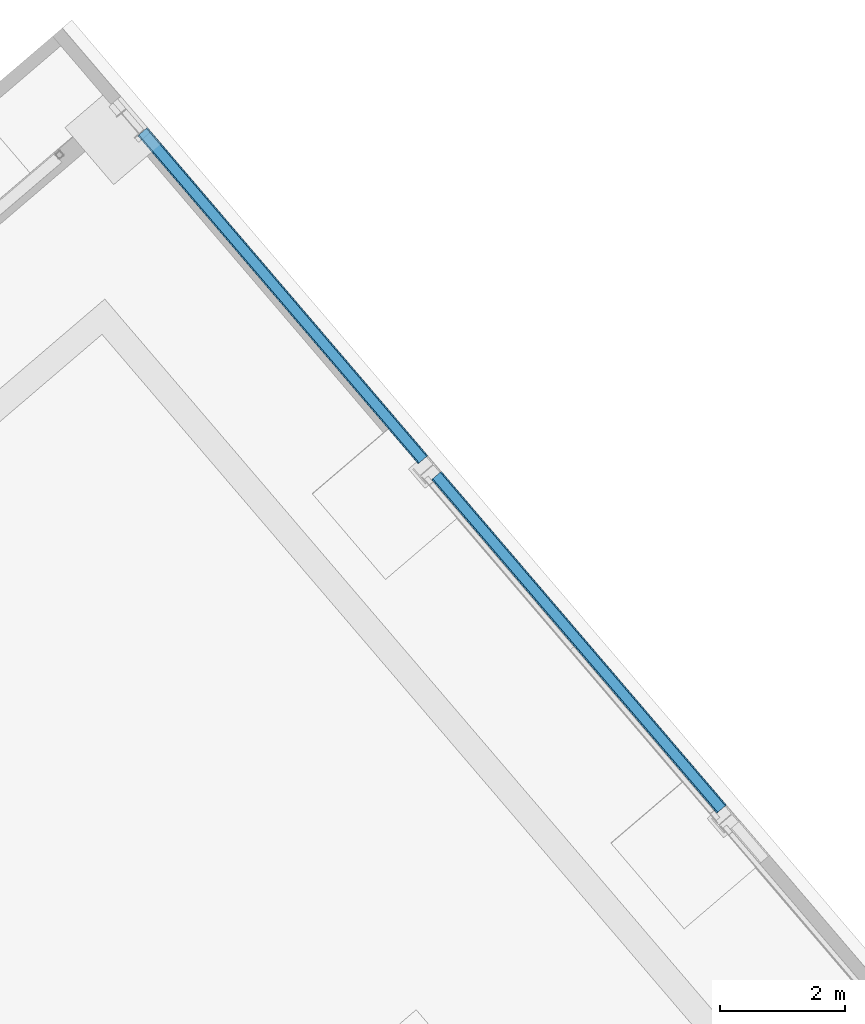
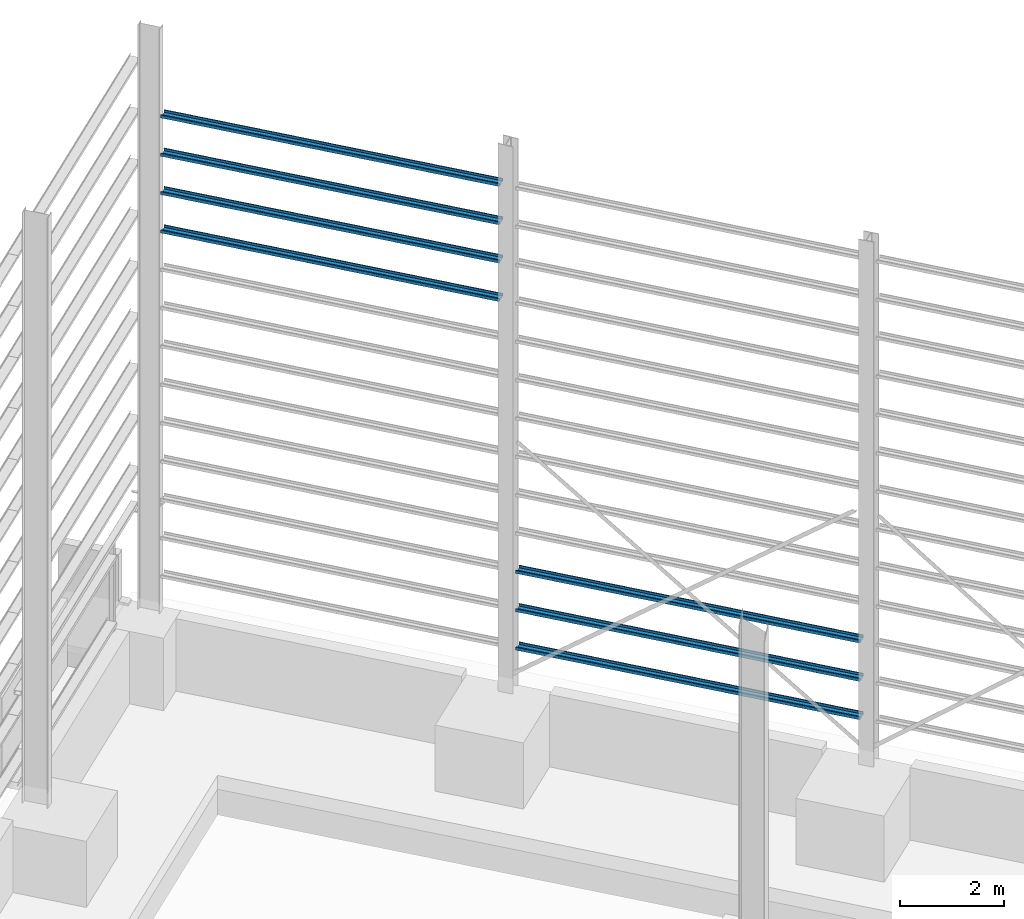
# One storey, part 29 of 41: 7 beams, 2 elements without a shape of their own.
"""IFC2X3 building model written with IfcOpenShell, lengths in millimetres."""

from ifc_helpers import new_model, entity, si_unit, converted_unit, derived_unit, direction, frame, frame_2d, origin, place, context, subcontext, project, spatial, polyline, circle_curve, parameter, trimmed, segment, composite_curve, outline, extrude, material, type_object, element, aggregate, save


model = new_model("IFC2X3")

# Units and contexts
model_context = context("Model", 3, precision=0.01, world=origin(), true_north=direction((6.123031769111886e-17, 1.0)))
body_context = subcontext(model_context, "Body", "Model", "MODEL_VIEW")
ifc_project = project(units=[si_unit("LENGTHUNIT", "METRE", prefix="MILLI"), si_unit("AREAUNIT", "SQUARE_METRE"), si_unit("VOLUMEUNIT", "CUBIC_METRE"), converted_unit("PLANEANGLEUNIT", "DEGREE", entity("IfcRatioMeasure", 0.017453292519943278), si_unit("PLANEANGLEUNIT", "RADIAN"), dimensions=[0, 0, 0, 0, 0, 0, 0]), si_unit("MASSUNIT", "GRAM", prefix="KILO"), derived_unit("MASSDENSITYUNIT", [(si_unit("MASSUNIT", "GRAM", prefix="KILO"), 1), (si_unit("LENGTHUNIT", "METRE"), -3)]), derived_unit("MOMENTOFINERTIAUNIT", [(si_unit("LENGTHUNIT", "METRE"), 4)]), si_unit("TIMEUNIT", "SECOND"), si_unit("FREQUENCYUNIT", "HERTZ"), si_unit("THERMODYNAMICTEMPERATUREUNIT", "DEGREE_CELSIUS"), derived_unit("THERMALTRANSMITTANCEUNIT", [(si_unit("MASSUNIT", "GRAM", prefix="KILO"), 1), (si_unit("THERMODYNAMICTEMPERATUREUNIT", "KELVIN"), -1), (si_unit("TIMEUNIT", "SECOND"), -3)]), derived_unit("VOLUMETRICFLOWRATEUNIT", [(si_unit("LENGTHUNIT", "METRE"), 3), (si_unit("TIMEUNIT", "SECOND"), -1)]), derived_unit("MASSFLOWRATEUNIT", [(si_unit("MASSUNIT", "GRAM", prefix="KILO"), 1), (si_unit("TIMEUNIT", "SECOND"), -1)]), derived_unit("ROTATIONALFREQUENCYUNIT", [(si_unit("TIMEUNIT", "SECOND"), -1)]), si_unit("ELECTRICCURRENTUNIT", "AMPERE"), si_unit("ELECTRICVOLTAGEUNIT", "VOLT"), si_unit("POWERUNIT", "WATT"), si_unit("FORCEUNIT", "NEWTON", prefix="KILO"), si_unit("ILLUMINANCEUNIT", "LUX"), si_unit("LUMINOUSFLUXUNIT", "LUMEN"), si_unit("LUMINOUSINTENSITYUNIT", "CANDELA"), derived_unit("USERDEFINED", [(si_unit("MASSUNIT", "GRAM", prefix="KILO"), -1), (si_unit("LENGTHUNIT", "METRE"), -2), (si_unit("TIMEUNIT", "SECOND"), 3), (si_unit("LUMINOUSFLUXUNIT", "LUMEN"), 1)]), derived_unit("SOUNDPOWERUNIT", [(si_unit("MASSUNIT", "GRAM", prefix="KILO"), 1), (si_unit("LENGTHUNIT", "METRE"), 2), (si_unit("TIMEUNIT", "SECOND"), -3)]), derived_unit("LINEARVELOCITYUNIT", [(si_unit("LENGTHUNIT", "METRE"), 1), (si_unit("TIMEUNIT", "SECOND"), -1)]), si_unit("PRESSUREUNIT", "PASCAL"), derived_unit("USERDEFINED", [(si_unit("LENGTHUNIT", "METRE"), -2), (si_unit("MASSUNIT", "GRAM", prefix="KILO"), 1), (si_unit("TIMEUNIT", "SECOND"), -2)]), derived_unit("LINEARFORCEUNIT", [(si_unit("MASSUNIT", "GRAM", prefix="KILO"), 1), (si_unit("LENGTHUNIT", "METRE"), 1), (si_unit("TIMEUNIT", "SECOND"), -2), (si_unit("LENGTHUNIT", "METRE"), -1)]), derived_unit("PLANARFORCEUNIT", [(si_unit("MASSUNIT", "GRAM", prefix="KILO"), 1), (si_unit("LENGTHUNIT", "METRE"), 1), (si_unit("TIMEUNIT", "SECOND"), -2), (si_unit("LENGTHUNIT", "METRE"), -2)])], contexts=[model_context])

# Site, building, storey
site_placement = place(None, frame((962.4174930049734, -6014.433753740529, 0.0), z_axis=(0.0, 0.0, 1.0), x_axis=(0.7601792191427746, 0.649713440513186, 0.0)))
site = spatial("IfcSite", under=ifc_project, at=site_placement, Name="Default", CompositionType="ELEMENT")
building_placement = place(site_placement, origin())
building = spatial("IfcBuilding", under=site, at=building_placement, CompositionType="ELEMENT")
storey_placement = place(building_placement, origin())
storey = spatial("IfcBuildingStorey", under=building, at=storey_placement, Name="Datum", CompositionType="ELEMENT", Elevation=0.0)

# Assembly, beams
assembly_1_placement = place(building_placement, origin())
assembly_1 = element("IfcElementAssembly", 1, at=assembly_1_placement, inside=storey, Name="Structural Beam System:Structural Beam System 1", ObjectType="Structural Beam System:Structural Beam System 1", AssemblyPlace="NOTDEFINED", PredefinedType="BEAM_GRID")
ifc_material = material(Name="Metal - Light Gauge")
beam_type = type_object("IfcBeamType", Name="ADSK_AUS_Light Gauge-Joists:C20015", PredefinedType="NOTDEFINED")
beam_1_placement = place(building_placement, frame((185748.56020470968, -11068.428082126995, 2403.9276653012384), z_axis=(0.0, 0.0, 1.0), x_axis=(0.0, 1.0, 0.0)))
beam_1 = element("IfcBeam", 2, at=beam_1_placement, type_object=beam_type, material=ifc_material, Name="ADSK_AUS_Light Gauge-Joists:C20015", ObjectType="ADSK_AUS_Light Gauge-Joists:C20015", context=body_context, shape_type="SweptSolid", body=[
    extrude(outline(composite_curve([segment(polyline([(-25.691849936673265, -101.50000000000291), (39.4918499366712, -101.50000000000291)]), True, "CONTINUOUS"), segment(trimmed(circle_curve(frame_2d((39.491849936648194, -98.8418499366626), x_axis=(0.0, -1.0)), 2.658150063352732), [parameter(0.0)], [parameter(89.99999999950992)], True, "PARAMETER"), True, "CONTINUOUS"), segment(polyline([(42.15000000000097, -98.8418499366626), (42.15000000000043, 98.84184993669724)]), True, "CONTINUOUS"), segment(trimmed(circle_curve(frame_2d((39.491849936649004, 98.84184993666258), x_axis=(1.0, 0.0)), 2.6581500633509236), [parameter(0.0)], [parameter(89.99999999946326)], True, "PARAMETER"), True, "CONTINUOUS"), segment(polyline([(39.49184993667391, 101.50000000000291), (-25.691849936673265, 101.50000000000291)]), True, "CONTINUOUS"), segment(trimmed(circle_curve(frame_2d((-25.691849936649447, 98.84184993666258), x_axis=(0.0, 1.0)), 2.6581500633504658), [parameter(0.0)], [parameter(89.99999999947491)], True, "PARAMETER"), True, "CONTINUOUS"), segment(polyline([(-28.35000000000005, 98.84184993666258), (-28.35000000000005, 80.0)]), True, "CONTINUOUS"), segment(polyline([(-28.34999999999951, 80.0), (-26.849999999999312, 80.0)]), True, "CONTINUOUS"), segment(polyline([(-26.849999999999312, 80.0), (-26.849999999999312, 98.42934993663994)]), True, "CONTINUOUS"), segment(trimmed(circle_curve(frame_2d((-25.279349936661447, 98.4293499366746), x_axis=(-1.0, 0.0)), 1.570650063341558), [parameter(270.0000000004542)], [parameter(0.0)], True, "PARAMETER"), False, "CONTINUOUS"), segment(polyline([(-25.279349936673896, 100.0), (39.07934993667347, 100.0)]), True, "CONTINUOUS"), segment(trimmed(circle_curve(frame_2d((39.07934993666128, 98.4293499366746), x_axis=(0.0, 1.0)), 1.5706500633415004), [parameter(270.00000000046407)], [parameter(0.0)], True, "PARAMETER"), False, "CONTINUOUS"), segment(polyline([(40.6500000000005, 98.4293499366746), (40.65000000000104, -98.4293499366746)]), True, "CONTINUOUS"), segment(trimmed(circle_curve(frame_2d((39.07934993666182, -98.4293499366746), x_axis=(1.0, 0.0)), 1.5706500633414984), [parameter(270.00000000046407)], [parameter(0.0)], True, "PARAMETER"), False, "CONTINUOUS"), segment(polyline([(39.07934993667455, -100.0), (-25.279349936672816, -100.0)]), True, "CONTINUOUS"), segment(trimmed(circle_curve(frame_2d((-25.279349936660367, -98.4293499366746), x_axis=(0.0, -1.0)), 1.5706500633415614), [parameter(270.0000000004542)], [parameter(0.0)], True, "PARAMETER"), False, "CONTINUOUS"), segment(polyline([(-26.849999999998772, -98.4293499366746), (-26.849999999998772, -80.0)]), True, "CONTINUOUS"), segment(polyline([(-26.849999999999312, -80.0), (-28.34999999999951, -80.0)]), True, "CONTINUOUS"), segment(polyline([(-28.34999999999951, -80.0), (-28.34999999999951, -98.84184993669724)]), True, "CONTINUOUS"), segment(trimmed(circle_curve(frame_2d((-25.691849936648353, -98.8418499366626), x_axis=(-1.0, 0.0)), 2.6581500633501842), [parameter(0.0)], [parameter(89.99999999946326)], True, "PARAMETER"), True, "CONTINUOUS")], self_intersect=False)), frame((13.168750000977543, -101.50000000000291, 42.1500000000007), z_axis=(1.0, 0.0, 0.0), x_axis=(0.0, 0.0, -1.0)), (0.0, 0.0, 1.0), 7021.000000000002),
])
beam_2_placement = place(building_placement, frame((185748.56020470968, -11068.428082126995, 1503.927665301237), z_axis=(0.0, 0.0, 1.0), x_axis=(0.0, 1.0, 0.0)))
beam_2 = element("IfcBeam", 3, at=beam_2_placement, type_object=beam_type, material=ifc_material, Name="ADSK_AUS_Light Gauge-Joists:C20015", ObjectType="ADSK_AUS_Light Gauge-Joists:C20015", context=body_context, shape_type="SweptSolid", body=[
    extrude(outline(composite_curve([segment(polyline([(-25.691849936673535, -101.50000000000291), (39.49184993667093, -101.50000000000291)]), True, "CONTINUOUS"), segment(trimmed(circle_curve(frame_2d((39.491849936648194, -98.8418499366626), x_axis=(0.0, -1.0)), 2.658150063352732), [parameter(0.0)], [parameter(89.99999999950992)], True, "PARAMETER"), True, "CONTINUOUS"), segment(polyline([(42.15000000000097, -98.8418499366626), (42.15000000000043, 98.84184993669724)]), True, "CONTINUOUS"), segment(trimmed(circle_curve(frame_2d((39.491849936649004, 98.84184993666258), x_axis=(1.0, 0.0)), 2.6581500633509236), [parameter(0.0)], [parameter(89.99999999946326)], True, "PARAMETER"), True, "CONTINUOUS"), segment(polyline([(39.49184993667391, 101.50000000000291), (-25.691849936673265, 101.50000000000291)]), True, "CONTINUOUS"), segment(trimmed(circle_curve(frame_2d((-25.691849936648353, 98.84184993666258), x_axis=(0.0, 1.0)), 2.658150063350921), [parameter(0.0)], [parameter(89.99999999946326)], True, "PARAMETER"), True, "CONTINUOUS"), segment(polyline([(-28.34999999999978, 98.84184993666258), (-28.34999999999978, 80.0)]), True, "CONTINUOUS"), segment(polyline([(-28.34999999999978, 80.0), (-26.849999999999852, 80.0)]), True, "CONTINUOUS"), segment(polyline([(-26.849999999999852, 80.0), (-26.849999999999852, 98.42934993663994)]), True, "CONTINUOUS"), segment(trimmed(circle_curve(frame_2d((-25.279349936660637, 98.4293499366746), x_axis=(-1.0, 0.0)), 1.5706500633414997), [parameter(270.00000000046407)], [parameter(0.0)], True, "PARAMETER"), False, "CONTINUOUS"), segment(polyline([(-25.279349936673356, 100.0), (39.07934993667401, 100.0)]), True, "CONTINUOUS"), segment(trimmed(circle_curve(frame_2d((39.07934993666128, 98.4293499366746), x_axis=(0.0, 1.0)), 1.5706500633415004), [parameter(270.00000000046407)], [parameter(0.0)], True, "PARAMETER"), False, "CONTINUOUS"), segment(polyline([(40.6500000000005, 98.4293499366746), (40.65000000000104, -98.4293499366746)]), True, "CONTINUOUS"), segment(trimmed(circle_curve(frame_2d((39.07934993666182, -98.4293499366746), x_axis=(1.0, 0.0)), 1.5706500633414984), [parameter(270.00000000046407)], [parameter(0.0)], True, "PARAMETER"), False, "CONTINUOUS"), segment(polyline([(39.07934993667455, -100.0), (-25.279349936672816, -100.0)]), True, "CONTINUOUS"), segment(trimmed(circle_curve(frame_2d((-25.279349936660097, -98.4293499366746), x_axis=(0.0, -1.0)), 1.5706500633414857), [parameter(270.00000000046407)], [parameter(0.0)], True, "PARAMETER"), False, "CONTINUOUS"), segment(polyline([(-26.849999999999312, -98.4293499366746), (-26.849999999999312, -80.0)]), True, "CONTINUOUS"), segment(polyline([(-26.849999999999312, -80.0), (-28.34999999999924, -80.0)]), True, "CONTINUOUS"), segment(polyline([(-28.34999999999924, -80.0), (-28.34999999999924, -98.84184993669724)]), True, "CONTINUOUS"), segment(trimmed(circle_curve(frame_2d((-25.691849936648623, -98.8418499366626), x_axis=(-1.0, 0.0)), 2.6581500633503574), [parameter(0.0)], [parameter(89.99999999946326)], True, "PARAMETER"), True, "CONTINUOUS")], self_intersect=False)), frame((13.168750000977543, -101.50000000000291, 42.1500000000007), z_axis=(1.0, 0.0, 0.0), x_axis=(0.0, 0.0, -1.0)), (0.0, 0.0, 1.0), 7021.000000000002),
])
beam_3_placement = place(building_placement, frame((185748.56020470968, -11068.428082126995, 603.9276653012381), z_axis=(0.0, 0.0, 1.0), x_axis=(0.0, 1.0, 0.0)))
beam_3 = element("IfcBeam", 4, at=beam_3_placement, type_object=beam_type, material=ifc_material, Name="ADSK_AUS_Light Gauge-Joists:C20015", ObjectType="ADSK_AUS_Light Gauge-Joists:C20015", context=body_context, shape_type="SweptSolid", body=[
    extrude(outline(composite_curve([segment(polyline([(-25.69184993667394, -101.50000000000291), (39.4918499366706, -101.50000000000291)]), True, "CONTINUOUS"), segment(trimmed(circle_curve(frame_2d((39.49184993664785, -98.8418499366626), x_axis=(0.0, -1.0)), 2.658150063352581), [parameter(0.0)], [parameter(89.99999999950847)], True, "PARAMETER"), True, "CONTINUOUS"), segment(polyline([(42.15000000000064, -98.8418499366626), (42.15000000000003, 98.84184993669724)]), True, "CONTINUOUS"), segment(trimmed(circle_curve(frame_2d((39.49184993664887, 98.84184993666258), x_axis=(1.0, 0.0)), 2.6581500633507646), [parameter(0.0)], [parameter(89.99999999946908)], True, "PARAMETER"), True, "CONTINUOUS"), segment(polyline([(39.4918499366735, 101.50000000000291), (-25.691849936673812, 101.50000000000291)]), True, "CONTINUOUS"), segment(trimmed(circle_curve(frame_2d((-25.691849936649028, 98.84184993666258), x_axis=(0.0, 1.0)), 2.6581500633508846), [parameter(0.0)], [parameter(89.99999999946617)], True, "PARAMETER"), True, "CONTINUOUS"), segment(polyline([(-28.350000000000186, 98.84184993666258), (-28.350000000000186, 80.0)]), True, "CONTINUOUS"), segment(polyline([(-28.350000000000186, 80.0), (-26.850000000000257, 80.0)]), True, "CONTINUOUS"), segment(polyline([(-26.850000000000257, 80.0), (-26.850000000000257, 98.42934993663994)]), True, "CONTINUOUS"), segment(trimmed(circle_curve(frame_2d((-25.279349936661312, 98.4293499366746), x_axis=(-1.0, 0.0)), 1.5706500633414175), [parameter(270.0000000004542)], [parameter(0.0)], True, "PARAMETER"), False, "CONTINUOUS"), segment(polyline([(-25.27934993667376, 100.0), (39.0793499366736, 100.0)]), True, "CONTINUOUS"), segment(trimmed(circle_curve(frame_2d((39.079349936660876, 98.4293499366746), x_axis=(0.0, 1.0)), 1.5706500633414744), [parameter(270.0000000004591)], [parameter(0.0)], True, "PARAMETER"), False, "CONTINUOUS"), segment(polyline([(40.64999999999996, 98.4293499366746), (40.65000000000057, -98.4293499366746)]), True, "CONTINUOUS"), segment(trimmed(circle_curve(frame_2d((39.07934993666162, -98.4293499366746), x_axis=(1.0, 0.0)), 1.5706500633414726), [parameter(270.0000000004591)], [parameter(0.0)], True, "PARAMETER"), False, "CONTINUOUS"), segment(polyline([(39.079349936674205, -100.0), (-25.279349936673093, -100.0)]), True, "CONTINUOUS"), segment(trimmed(circle_curve(frame_2d((-25.279349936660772, -98.4293499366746), x_axis=(0.0, -1.0)), 1.5706500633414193), [parameter(270.0000000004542)], [parameter(0.0)], True, "PARAMETER"), False, "CONTINUOUS"), segment(polyline([(-26.849999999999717, -98.4293499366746), (-26.849999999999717, -80.0)]), True, "CONTINUOUS"), segment(polyline([(-26.849999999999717, -80.0), (-28.349999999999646, -80.0)]), True, "CONTINUOUS"), segment(polyline([(-28.349999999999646, -80.0), (-28.349999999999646, -98.84184993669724)]), True, "CONTINUOUS"), segment(trimmed(circle_curve(frame_2d((-25.6918499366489, -98.8418499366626), x_axis=(-1.0, 0.0)), 2.6581500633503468), [parameter(0.0)], [parameter(89.99999999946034)], True, "PARAMETER"), True, "CONTINUOUS")], self_intersect=False)), frame((13.168750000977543, -101.50000000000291, 42.1500000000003), z_axis=(1.0, 0.0, 0.0), x_axis=(0.0, 0.0, -1.0)), (0.0, 0.0, 1.0), 7021.000000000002),
])
aggregate(assembly_1, [beam_1, beam_2, beam_3])

assembly_2_placement = place(building_placement, origin())
assembly_2 = element("IfcElementAssembly", 5, at=assembly_2_placement, inside=storey, Name="Structural Beam System:Structural Beam System 1", ObjectType="Structural Beam System:Structural Beam System 1", AssemblyPlace="NOTDEFINED", PredefinedType="BEAM_GRID")
beam_4_placement = place(building_placement, frame((185748.56020470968, -3714.0905821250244, 11402.50358273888), z_axis=(0.0, 0.0, 1.0), x_axis=(0.0, 1.0, 0.0)))
beam_4 = element("IfcBeam", 6, at=beam_4_placement, type_object=beam_type, material=ifc_material, Name="ADSK_AUS_Light Gauge-Joists:C20015", ObjectType="ADSK_AUS_Light Gauge-Joists:C20015", context=body_context, shape_type="SweptSolid", body=[
    extrude(outline(composite_curve([segment(polyline([(-25.691849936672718, -101.50000000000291), (39.49184993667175, -101.50000000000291)]), True, "CONTINUOUS"), segment(trimmed(circle_curve(frame_2d((39.49184993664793, -98.8418499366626), x_axis=(0.0, -1.0)), 2.6581500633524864), [parameter(0.0)], [parameter(89.99999999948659)], True, "PARAMETER"), True, "CONTINUOUS"), segment(polyline([(42.15000000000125, -98.8418499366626), (42.15000000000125, 98.84184993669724)]), True, "CONTINUOUS"), segment(trimmed(circle_curve(frame_2d((39.49184993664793, 98.84184993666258), x_axis=(1.0, 0.0)), 2.6581500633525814), [parameter(0.0)], [parameter(89.99999999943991)], True, "PARAMETER"), True, "CONTINUOUS"), segment(polyline([(39.491849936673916, 101.50000000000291), (-25.691849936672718, 101.50000000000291)]), True, "CONTINUOUS"), segment(trimmed(circle_curve(frame_2d((-25.691849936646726, 98.84184993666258), x_axis=(0.0, 1.0)), 2.6581500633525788), [parameter(0.0)], [parameter(89.99999999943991)], True, "PARAMETER"), True, "CONTINUOUS"), segment(polyline([(-28.350000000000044, 98.84184993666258), (-28.350000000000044, 80.0)]), True, "CONTINUOUS"), segment(polyline([(-28.350000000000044, 80.0), (-26.850000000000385, 80.0)]), True, "CONTINUOUS"), segment(polyline([(-26.849999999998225, 80.0), (-26.849999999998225, 98.42934993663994)]), True, "CONTINUOUS"), segment(trimmed(circle_curve(frame_2d((-25.27934993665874, 98.4293499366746), x_axis=(-1.0, 0.0)), 1.5706500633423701), [parameter(270.00000000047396)], [parameter(0.0)], True, "PARAMETER"), False, "CONTINUOUS"), segment(polyline([(-25.27934993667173, 100.0), (39.079349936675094, 100.0)]), True, "CONTINUOUS"), segment(trimmed(circle_curve(frame_2d((39.07934993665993, 98.4293499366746), x_axis=(0.0, 1.0)), 1.5706500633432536), [parameter(270.0000000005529)], [parameter(0.0)], True, "PARAMETER"), False, "CONTINUOUS"), segment(polyline([(40.65000000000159, 98.4293499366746), (40.65000000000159, -98.4293499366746)]), True, "CONTINUOUS"), segment(trimmed(circle_curve(frame_2d((39.07934993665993, -98.4293499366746), x_axis=(1.0, 0.0)), 1.5706500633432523), [parameter(270.0000000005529)], [parameter(0.0)], True, "PARAMETER"), False, "CONTINUOUS"), segment(polyline([(39.079349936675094, -100.0), (-25.27934993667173, -100.0)]), True, "CONTINUOUS"), segment(trimmed(circle_curve(frame_2d((-25.279349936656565, -98.4293499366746), x_axis=(0.0, -1.0)), 1.570650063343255), [parameter(270.0000000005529)], [parameter(0.0)], True, "PARAMETER"), False, "CONTINUOUS"), segment(polyline([(-26.849999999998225, -98.4293499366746), (-26.849999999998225, -80.0)]), True, "CONTINUOUS"), segment(polyline([(-26.849999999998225, -80.0), (-28.349999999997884, -80.0)]), True, "CONTINUOUS"), segment(polyline([(-28.350000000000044, -80.0), (-28.350000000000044, -98.84184993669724)]), True, "CONTINUOUS"), segment(trimmed(circle_curve(frame_2d((-25.6918499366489, -98.8418499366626), x_axis=(-1.0, 0.0)), 2.658150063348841), [parameter(0.0)], [parameter(89.99999999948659)], True, "PARAMETER"), True, "CONTINUOUS")], self_intersect=False)), frame((13.03124998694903, -101.50000000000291, 42.15000000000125), z_axis=(1.0, 0.0, 0.0), x_axis=(0.0, 0.0, -1.0)), (0.0, 0.0, 1.0), 6906.0),
])
beam_5_placement = place(building_placement, frame((185748.56020470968, -3714.0905821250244, 10502.503582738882), z_axis=(0.0, 0.0, 1.0), x_axis=(0.0, 1.0, 0.0)))
beam_5 = element("IfcBeam", 7, at=beam_5_placement, type_object=beam_type, material=ifc_material, Name="ADSK_AUS_Light Gauge-Joists:C20015", ObjectType="ADSK_AUS_Light Gauge-Joists:C20015", context=body_context, shape_type="SweptSolid", body=[
    extrude(outline(composite_curve([segment(polyline([(-25.691849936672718, -101.50000000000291), (39.49184993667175, -101.50000000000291)]), True, "CONTINUOUS"), segment(trimmed(circle_curve(frame_2d((39.49184993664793, -98.8418499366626), x_axis=(0.0, -1.0)), 2.6581500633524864), [parameter(0.0)], [parameter(89.99999999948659)], True, "PARAMETER"), True, "CONTINUOUS"), segment(polyline([(42.15000000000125, -98.8418499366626), (42.15000000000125, 98.84184993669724)]), True, "CONTINUOUS"), segment(trimmed(circle_curve(frame_2d((39.49184993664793, 98.84184993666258), x_axis=(1.0, 0.0)), 2.6581500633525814), [parameter(0.0)], [parameter(89.99999999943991)], True, "PARAMETER"), True, "CONTINUOUS"), segment(polyline([(39.491849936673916, 101.50000000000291), (-25.691849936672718, 101.50000000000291)]), True, "CONTINUOUS"), segment(trimmed(circle_curve(frame_2d((-25.691849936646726, 98.84184993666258), x_axis=(0.0, 1.0)), 2.6581500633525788), [parameter(0.0)], [parameter(89.99999999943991)], True, "PARAMETER"), True, "CONTINUOUS"), segment(polyline([(-28.350000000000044, 98.84184993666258), (-28.350000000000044, 80.0)]), True, "CONTINUOUS"), segment(polyline([(-28.350000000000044, 80.0), (-26.850000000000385, 80.0)]), True, "CONTINUOUS"), segment(polyline([(-26.849999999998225, 80.0), (-26.849999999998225, 98.42934993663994)]), True, "CONTINUOUS"), segment(trimmed(circle_curve(frame_2d((-25.27934993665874, 98.4293499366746), x_axis=(-1.0, 0.0)), 1.5706500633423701), [parameter(270.00000000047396)], [parameter(0.0)], True, "PARAMETER"), False, "CONTINUOUS"), segment(polyline([(-25.27934993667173, 100.0), (39.079349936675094, 100.0)]), True, "CONTINUOUS"), segment(trimmed(circle_curve(frame_2d((39.07934993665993, 98.4293499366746), x_axis=(0.0, 1.0)), 1.5706500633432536), [parameter(270.0000000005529)], [parameter(0.0)], True, "PARAMETER"), False, "CONTINUOUS"), segment(polyline([(40.65000000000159, 98.4293499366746), (40.65000000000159, -98.4293499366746)]), True, "CONTINUOUS"), segment(trimmed(circle_curve(frame_2d((39.07934993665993, -98.4293499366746), x_axis=(1.0, 0.0)), 1.5706500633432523), [parameter(270.0000000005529)], [parameter(0.0)], True, "PARAMETER"), False, "CONTINUOUS"), segment(polyline([(39.079349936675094, -100.0), (-25.27934993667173, -100.0)]), True, "CONTINUOUS"), segment(trimmed(circle_curve(frame_2d((-25.279349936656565, -98.4293499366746), x_axis=(0.0, -1.0)), 1.570650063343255), [parameter(270.0000000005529)], [parameter(0.0)], True, "PARAMETER"), False, "CONTINUOUS"), segment(polyline([(-26.849999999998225, -98.4293499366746), (-26.849999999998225, -80.0)]), True, "CONTINUOUS"), segment(polyline([(-26.849999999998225, -80.0), (-28.349999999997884, -80.0)]), True, "CONTINUOUS"), segment(polyline([(-28.350000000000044, -80.0), (-28.350000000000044, -98.84184993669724)]), True, "CONTINUOUS"), segment(trimmed(circle_curve(frame_2d((-25.6918499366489, -98.8418499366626), x_axis=(-1.0, 0.0)), 2.658150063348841), [parameter(0.0)], [parameter(89.99999999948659)], True, "PARAMETER"), True, "CONTINUOUS")], self_intersect=False)), frame((13.03124998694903, -101.50000000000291, 42.15000000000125), z_axis=(1.0, 0.0, 0.0), x_axis=(0.0, 0.0, -1.0)), (0.0, 0.0, 1.0), 6906.0),
])
beam_6_placement = place(building_placement, frame((185748.56020470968, -3714.0905821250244, 9602.50358273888), z_axis=(0.0, 0.0, 1.0), x_axis=(0.0, 1.0, 0.0)))
beam_6 = element("IfcBeam", 8, at=beam_6_placement, type_object=beam_type, material=ifc_material, Name="ADSK_AUS_Light Gauge-Joists:C20015", ObjectType="ADSK_AUS_Light Gauge-Joists:C20015", context=body_context, shape_type="SweptSolid", body=[
    extrude(outline(composite_curve([segment(polyline([(-25.691849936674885, -101.50000000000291), (39.49184993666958, -101.50000000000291)]), True, "CONTINUOUS"), segment(trimmed(circle_curve(frame_2d((39.491849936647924, -98.8418499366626), x_axis=(0.0, -1.0)), 2.658150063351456), [parameter(0.0)], [parameter(89.99999999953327)], True, "PARAMETER"), True, "CONTINUOUS"), segment(polyline([(42.14999999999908, -98.8418499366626), (42.149999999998, 98.84184993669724)]), True, "CONTINUOUS"), segment(trimmed(circle_curve(frame_2d((39.491849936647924, 98.84184993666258), x_axis=(1.0, 0.0)), 2.658150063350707), [parameter(0.0)], [parameter(89.99999999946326)], True, "PARAMETER"), True, "CONTINUOUS"), segment(polyline([(39.491849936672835, 101.50000000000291), (-25.691849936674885, 101.50000000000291)]), True, "CONTINUOUS"), segment(trimmed(circle_curve(frame_2d((-25.691849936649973, 98.84184993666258), x_axis=(0.0, 1.0)), 2.658150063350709), [parameter(0.0)], [parameter(89.99999999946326)], True, "PARAMETER"), True, "CONTINUOUS"), segment(polyline([(-28.35000000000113, 98.84184993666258), (-28.35000000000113, 80.0)]), True, "CONTINUOUS"), segment(polyline([(-28.35000000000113, 80.0), (-26.850000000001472, 80.0)]), True, "CONTINUOUS"), segment(polyline([(-26.850000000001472, 80.0), (-26.850000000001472, 98.42934993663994)]), True, "CONTINUOUS"), segment(trimmed(circle_curve(frame_2d((-25.279349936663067, 98.4293499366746), x_axis=(-1.0, 0.0)), 1.570650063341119), [parameter(270.00000000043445)], [parameter(0.0)], True, "PARAMETER"), False, "CONTINUOUS"), segment(polyline([(-25.279349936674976, 100.0), (39.079349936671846, 100.0)]), True, "CONTINUOUS"), segment(trimmed(circle_curve(frame_2d((39.07934993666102, 98.4293499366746), x_axis=(0.0, 1.0)), 1.570650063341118), [parameter(270.00000000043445)], [parameter(0.0)], True, "PARAMETER"), False, "CONTINUOUS"), segment(polyline([(40.64999999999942, 98.4293499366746), (40.6500000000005, -98.4293499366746)]), True, "CONTINUOUS"), segment(trimmed(circle_curve(frame_2d((39.07934993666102, -98.4293499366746), x_axis=(1.0, 0.0)), 1.570650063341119), [parameter(270.00000000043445)], [parameter(0.0)], True, "PARAMETER"), False, "CONTINUOUS"), segment(polyline([(39.079349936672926, -100.0), (-25.279349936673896, -100.0)]), True, "CONTINUOUS"), segment(trimmed(circle_curve(frame_2d((-25.279349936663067, -98.4293499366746), x_axis=(0.0, -1.0)), 1.570650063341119), [parameter(270.00000000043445)], [parameter(0.0)], True, "PARAMETER"), False, "CONTINUOUS"), segment(polyline([(-26.850000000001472, -98.4293499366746), (-26.850000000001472, -80.0)]), True, "CONTINUOUS"), segment(polyline([(-26.850000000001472, -80.0), (-28.35000000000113, -80.0)]), True, "CONTINUOUS"), segment(polyline([(-28.35000000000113, -80.0), (-28.35000000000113, -98.84184993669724)]), True, "CONTINUOUS"), segment(trimmed(circle_curve(frame_2d((-25.691849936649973, -98.8418499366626), x_axis=(-1.0, 0.0)), 2.6581500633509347), [parameter(0.0)], [parameter(89.99999999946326)], True, "PARAMETER"), True, "CONTINUOUS")], self_intersect=False)), frame((13.03124998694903, -101.50000000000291, 42.14999999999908), z_axis=(1.0, 0.0, 0.0), x_axis=(0.0, 0.0, -1.0)), (0.0, 0.0, 1.0), 6906.0),
])
beam_7_placement = place(building_placement, frame((185748.56020470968, -3714.0905821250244, 8702.50358273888), z_axis=(0.0, 0.0, 1.0), x_axis=(0.0, 1.0, 0.0)))
beam_7 = element("IfcBeam", 9, at=beam_7_placement, type_object=beam_type, material=ifc_material, Name="ADSK_AUS_Light Gauge-Joists:C20015", ObjectType="ADSK_AUS_Light Gauge-Joists:C20015", context=body_context, shape_type="SweptSolid", body=[
    extrude(outline(composite_curve([segment(polyline([(-25.691849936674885, -101.50000000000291), (39.49184993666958, -101.50000000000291)]), True, "CONTINUOUS"), segment(trimmed(circle_curve(frame_2d((39.491849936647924, -98.8418499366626), x_axis=(0.0, -1.0)), 2.658150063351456), [parameter(0.0)], [parameter(89.99999999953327)], True, "PARAMETER"), True, "CONTINUOUS"), segment(polyline([(42.14999999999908, -98.8418499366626), (42.149999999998, 98.84184993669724)]), True, "CONTINUOUS"), segment(trimmed(circle_curve(frame_2d((39.491849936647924, 98.84184993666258), x_axis=(1.0, 0.0)), 2.658150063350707), [parameter(0.0)], [parameter(89.99999999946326)], True, "PARAMETER"), True, "CONTINUOUS"), segment(polyline([(39.491849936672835, 101.50000000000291), (-25.691849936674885, 101.50000000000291)]), True, "CONTINUOUS"), segment(trimmed(circle_curve(frame_2d((-25.691849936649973, 98.84184993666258), x_axis=(0.0, 1.0)), 2.658150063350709), [parameter(0.0)], [parameter(89.99999999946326)], True, "PARAMETER"), True, "CONTINUOUS"), segment(polyline([(-28.35000000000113, 98.84184993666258), (-28.35000000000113, 80.0)]), True, "CONTINUOUS"), segment(polyline([(-28.35000000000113, 80.0), (-26.850000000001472, 80.0)]), True, "CONTINUOUS"), segment(polyline([(-26.850000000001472, 80.0), (-26.850000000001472, 98.42934993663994)]), True, "CONTINUOUS"), segment(trimmed(circle_curve(frame_2d((-25.279349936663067, 98.4293499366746), x_axis=(-1.0, 0.0)), 1.570650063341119), [parameter(270.00000000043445)], [parameter(0.0)], True, "PARAMETER"), False, "CONTINUOUS"), segment(polyline([(-25.279349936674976, 100.0), (39.079349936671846, 100.0)]), True, "CONTINUOUS"), segment(trimmed(circle_curve(frame_2d((39.07934993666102, 98.4293499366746), x_axis=(0.0, 1.0)), 1.570650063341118), [parameter(270.00000000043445)], [parameter(0.0)], True, "PARAMETER"), False, "CONTINUOUS"), segment(polyline([(40.64999999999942, 98.4293499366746), (40.6500000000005, -98.4293499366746)]), True, "CONTINUOUS"), segment(trimmed(circle_curve(frame_2d((39.07934993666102, -98.4293499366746), x_axis=(1.0, 0.0)), 1.570650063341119), [parameter(270.00000000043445)], [parameter(0.0)], True, "PARAMETER"), False, "CONTINUOUS"), segment(polyline([(39.079349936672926, -100.0), (-25.279349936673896, -100.0)]), True, "CONTINUOUS"), segment(trimmed(circle_curve(frame_2d((-25.279349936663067, -98.4293499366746), x_axis=(0.0, -1.0)), 1.570650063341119), [parameter(270.00000000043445)], [parameter(0.0)], True, "PARAMETER"), False, "CONTINUOUS"), segment(polyline([(-26.850000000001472, -98.4293499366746), (-26.850000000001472, -80.0)]), True, "CONTINUOUS"), segment(polyline([(-26.850000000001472, -80.0), (-28.35000000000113, -80.0)]), True, "CONTINUOUS"), segment(polyline([(-28.35000000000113, -80.0), (-28.35000000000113, -98.84184993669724)]), True, "CONTINUOUS"), segment(trimmed(circle_curve(frame_2d((-25.691849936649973, -98.8418499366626), x_axis=(-1.0, 0.0)), 2.6581500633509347), [parameter(0.0)], [parameter(89.99999999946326)], True, "PARAMETER"), True, "CONTINUOUS")], self_intersect=False)), frame((13.03124998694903, -101.50000000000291, 42.14999999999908), z_axis=(1.0, 0.0, 0.0), x_axis=(0.0, 0.0, -1.0)), (0.0, 0.0, 1.0), 6906.0),
])
aggregate(assembly_2, [beam_4, beam_5, beam_6, beam_7])

save(model, "model.ifc")
